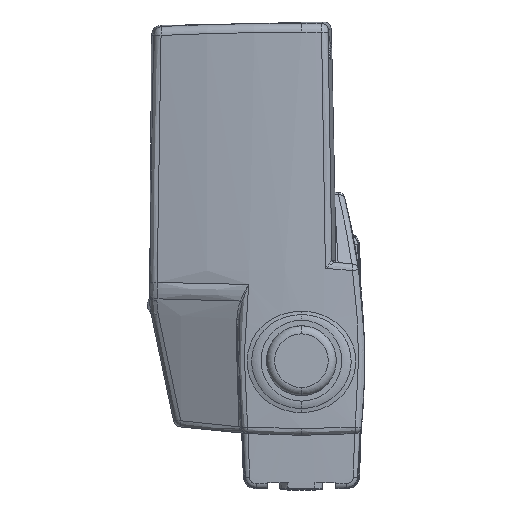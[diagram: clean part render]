
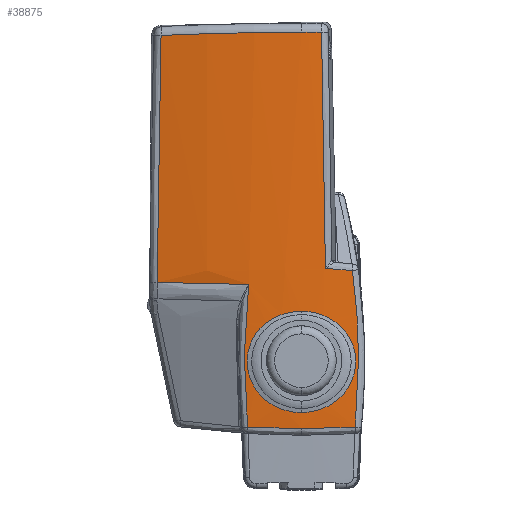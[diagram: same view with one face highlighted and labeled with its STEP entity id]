
A CAD part, left-side view. The second image highlights one B-rep face of the part: STEP entity #38875.
In plain terms, the highlighted toroidal (fillet/blend) face has major radius 2250 mm and minor radius 250 mm.
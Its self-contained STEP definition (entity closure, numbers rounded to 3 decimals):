
#730=CARTESIAN_POINT('',(-37.569,-18.917,33.47));
#769=CARTESIAN_POINT('',(-37.795,0.,
-25.25));
#770=CARTESIAN_POINT('',(-37.795,-6.669,
-25.25));
#771=CARTESIAN_POINT('',(-37.531,-13.339,
-25.054));
#772=CARTESIAN_POINT('',(-37.008,-19.975,
-24.643));
#777=CARTESIAN_POINT('',(-37.008,19.975,-24.643));
#778=CARTESIAN_POINT('',(-37.531,13.339,-25.054));
#779=CARTESIAN_POINT('',(-37.795,6.669,-25.25));
#780=CARTESIAN_POINT('',(-37.795,0.,
-25.25));
#785=CARTESIAN_POINT('',(-37.53,19.573,28.3));
#786=CARTESIAN_POINT('',(-37.393,21.613,10.734));
#787=CARTESIAN_POINT('',(-37.215,21.748,-7.049));
#788=CARTESIAN_POINT('',(-37.008,19.975,-24.643));
#793=CARTESIAN_POINT('',(-32.494,53.549,29.039));
#794=CARTESIAN_POINT('',(-33.313,49.818,28.919));
#795=CARTESIAN_POINT('',(-34.778,42.319,28.704));
#796=CARTESIAN_POINT('',(-36.459,30.981,28.457));
#797=CARTESIAN_POINT('',(-37.231,23.38,28.344));
#798=CARTESIAN_POINT('',(-37.53,19.573,28.3));
#803=CARTESIAN_POINT('',(-30.973,52.103,120.725));
#804=CARTESIAN_POINT('',(-31.297,52.411,110.568));
#805=CARTESIAN_POINT('',(-31.842,52.929,90.234));
#806=CARTESIAN_POINT('',(-32.349,53.412,59.668));
#807=CARTESIAN_POINT('',(-32.481,53.536,39.255));
#808=CARTESIAN_POINT('',(-32.494,53.549,29.039));
#813=CARTESIAN_POINT('',(204.34,-0.006,69.778));
#814=DIRECTION('',(-0.212,0.,-0.977));
#815=DIRECTION('',(-0.977,0.,0.212));
#816=AXIS2_PLACEMENT_3D('',#813,#814,#815);
#821=CARTESIAN_POINT('',(-38.124,-8.904,34.248));
#822=CARTESIAN_POINT('',(-38.019,-8.823,63.467));
#823=CARTESIAN_POINT('',(-37.417,-8.336,92.685));
#824=CARTESIAN_POINT('',(-36.31,-7.482,121.871));
#829=CARTESIAN_POINT('',(-37.569,-18.917,33.47));
#830=CARTESIAN_POINT('',(-37.82,-15.588,33.785));
#831=CARTESIAN_POINT('',(-38.006,-12.249,34.037));
#832=CARTESIAN_POINT('',(-38.124,-8.904,34.248));
#837=CARTESIAN_POINT('',(-37.008,-19.975,
-24.643));
#838=CARTESIAN_POINT('',(-37.235,-21.922,
-5.321));
#839=CARTESIAN_POINT('',(-37.433,-21.566,14.23));
#840=CARTESIAN_POINT('',(-37.569,-18.917,33.47));
#1720=CARTESIAN_POINT('',(204.227,0.,69.831));
#1721=DIRECTION('',(0.211,0.,0.977));
#1722=DIRECTION('',(-0.977,0.,0.211));
#1723=AXIS2_PLACEMENT_3D('',#1720,#1721,#1722);
#3527=CARTESIAN_POINT('',(-37.908,0.,
-19.27));
#3528=CARTESIAN_POINT('',(-37.908,-1.418,
-19.27));
#3529=CARTESIAN_POINT('',(-37.889,-4.148,
-19.002));
#3530=CARTESIAN_POINT('',(-37.813,-8.013,
-17.863));
#3531=CARTESIAN_POINT('',(-37.71,-11.373,
-16.147));
#3532=CARTESIAN_POINT('',(-37.59,-14.391,
-13.807));
#3533=CARTESIAN_POINT('',(-37.477,-16.839,
-10.987));
#3534=CARTESIAN_POINT('',(-37.39,-18.663,
-7.782));
#3535=CARTESIAN_POINT('',(-37.343,-19.799,
-4.391));
#3536=CARTESIAN_POINT('',(-37.346,-20.259,
-0.751));
#3537=CARTESIAN_POINT('',(-37.404,-19.978,
2.873));
#3538=CARTESIAN_POINT('',(-37.511,-18.981,
6.372));
#3539=CARTESIAN_POINT('',(-37.658,-17.281,
9.648));
#3540=CARTESIAN_POINT('',(-37.833,-14.858,
12.619));
#3541=CARTESIAN_POINT('',(-38.009,-11.804,
15.071));
#3542=CARTESIAN_POINT('',(-38.158,-8.323,
16.875));
#3543=CARTESIAN_POINT('',(-38.265,-4.322,
18.044));
#3544=CARTESIAN_POINT('',(-38.291,-1.479,
18.318));
#3545=CARTESIAN_POINT('',(-38.291,0.,
18.318));
#3558=CARTESIAN_POINT('',(-38.291,0.,
18.318));
#3559=CARTESIAN_POINT('',(-38.291,1.479,18.318));
#3560=CARTESIAN_POINT('',(-38.264,4.292,18.044));
#3561=CARTESIAN_POINT('',(-38.163,8.144,16.93));
#3562=CARTESIAN_POINT('',(-38.026,11.435,15.289));
#3563=CARTESIAN_POINT('',(-37.861,14.419,13.022));
#3564=CARTESIAN_POINT('',(-37.693,16.831,10.286));
#3565=CARTESIAN_POINT('',(-37.541,18.655,7.133));
#3566=CARTESIAN_POINT('',(-37.425,19.801,3.729));
#3567=CARTESIAN_POINT('',(-37.355,20.26,
0.114));
#3568=CARTESIAN_POINT('',(-37.339,19.971,
-3.58));
#3569=CARTESIAN_POINT('',(-37.376,18.95,
-7.121));
#3570=CARTESIAN_POINT('',(-37.459,17.203,
-10.472));
#3571=CARTESIAN_POINT('',(-37.575,14.722,
-13.504));
#3572=CARTESIAN_POINT('',(-37.701,11.626,
-15.997));
#3573=CARTESIAN_POINT('',(-37.811,8.126,
-17.829));
#3574=CARTESIAN_POINT('',(-37.889,4.151,
-19.006));
#3575=CARTESIAN_POINT('',(-37.908,1.411,
-19.27));
#3576=CARTESIAN_POINT('',(-37.908,0.,
-19.27));
#34163=VERTEX_POINT('',#730);
#34164=VERTEX_POINT('',#832);
#34167=VERTEX_POINT('',#769);
#34168=VERTEX_POINT('',#772);
#34169=VERTEX_POINT('',#777);
#34170=VERTEX_POINT('',#785);
#34171=VERTEX_POINT('',#793);
#34172=VERTEX_POINT('',#803);
#34173=CARTESIAN_POINT('',(-36.422,0.,
121.895));
#34174=VERTEX_POINT('',#34173);
#34175=CARTESIAN_POINT('',(-36.311,-7.482,
121.868));
#34176=VERTEX_POINT('',#34175);
#34177=VERTEX_POINT('',#3527);
#34178=VERTEX_POINT('',#3545);
#38843=CARTESIAN_POINT('',(2461.7,0.,25.));
#38844=DIRECTION('',(0.,1.,0.));
#38845=DIRECTION('',(-0.999,0.,-0.044));
#38846=AXIS2_PLACEMENT_3D('',#38843,#38844,#38845);
#38847=TOROIDAL_SURFACE('',#38846,2250.,250.);
#38849=ORIENTED_EDGE('',*,*,#38848,.F.);
#38851=ORIENTED_EDGE('',*,*,#38850,.F.);
#38853=ORIENTED_EDGE('',*,*,#38852,.F.);
#38855=ORIENTED_EDGE('',*,*,#38854,.F.);
#38857=ORIENTED_EDGE('',*,*,#38856,.F.);
#38859=ORIENTED_EDGE('',*,*,#38858,.F.);
#38861=ORIENTED_EDGE('',*,*,#38860,.T.);
#38863=ORIENTED_EDGE('',*,*,#38862,.F.);
#38864=ORIENTED_EDGE('',*,*,#38831,.F.);
#38866=ORIENTED_EDGE('',*,*,#38865,.F.);
#38867=EDGE_LOOP('',(#38849,#38851,#38853,#38855,#38857,#38859,#38861,#38863,
#38864,#38866));
#38868=FACE_OUTER_BOUND('',#38867,.F.);
#38870=ORIENTED_EDGE('',*,*,#38869,.T.);
#38872=ORIENTED_EDGE('',*,*,#38871,.T.);
#38873=EDGE_LOOP('',(#38870,#38872));
#38874=FACE_BOUND('',#38873,.F.);
#38875=ADVANCED_FACE('',(#38868,#38874),#38847,.T.);
#773=B_SPLINE_CURVE_WITH_KNOTS('',3,(#769,#770,#771,#772),.UNSPECIFIED.,.F.,.F.,
(4,4),(0.,1.),.UNSPECIFIED.);
#781=B_SPLINE_CURVE_WITH_KNOTS('',3,(#777,#778,#779,#780),.UNSPECIFIED.,.F.,.F.,
(4,4),(0.,1.),.UNSPECIFIED.);
#789=B_SPLINE_CURVE_WITH_KNOTS('',3,(#785,#786,#787,#788),.UNSPECIFIED.,.F.,.F.,
(4,4),(0.,1.),.UNSPECIFIED.);
#799=B_SPLINE_CURVE_WITH_KNOTS('',3,(#793,#794,#795,#796,#797,#798),
.UNSPECIFIED.,.F.,.F.,(4,1,1,4),(0.,0.333,0.667,1.),
.UNSPECIFIED.);
#809=B_SPLINE_CURVE_WITH_KNOTS('',3,(#803,#804,#805,#806,#807,#808),
.UNSPECIFIED.,.F.,.F.,(4,1,1,4),(0.,0.333,0.667,1.),
.UNSPECIFIED.);
#817=CIRCLE('',#816,246.337);
#825=B_SPLINE_CURVE_WITH_KNOTS('',3,(#821,#822,#823,#824),.UNSPECIFIED.,.F.,.F.,
(4,4),(0.,1.),.UNSPECIFIED.);
#833=B_SPLINE_CURVE_WITH_KNOTS('',3,(#829,#830,#831,#832),.UNSPECIFIED.,.F.,.F.,
(4,4),(0.,1.),.UNSPECIFIED.);
#841=B_SPLINE_CURVE_WITH_KNOTS('',3,(#837,#838,#839,#840),.UNSPECIFIED.,.F.,.F.,
(4,4),(0.,1.),.UNSPECIFIED.);
#1724=CIRCLE('',#1723,246.215);
#3546=B_SPLINE_CURVE_WITH_KNOTS('',3,(#3527,#3528,#3529,#3530,#3531,#3532,#3533,
#3534,#3535,#3536,#3537,#3538,#3539,#3540,#3541,#3542,#3543,#3544,#3545),
.UNSPECIFIED.,.F.,.F.,(4,1,1,1,1,1,1,1,1,1,1,1,1,1,1,1,4),(0.,0.063,0.125,
0.188,0.25,0.313,0.375,0.438,0.5,0.563,0.625,0.688,
0.75,0.813,0.875,0.938,1.),.UNSPECIFIED.);
#3577=B_SPLINE_CURVE_WITH_KNOTS('',3,(#3558,#3559,#3560,#3561,#3562,#3563,#3564,
#3565,#3566,#3567,#3568,#3569,#3570,#3571,#3572,#3573,#3574,#3575,#3576),
.UNSPECIFIED.,.F.,.F.,(4,1,1,1,1,1,1,1,1,1,1,1,1,1,1,1,4),(0.,0.063,0.125,
0.188,0.25,0.313,0.375,0.438,0.5,0.563,0.625,0.688,
0.75,0.813,0.875,0.938,1.),.UNSPECIFIED.);
#38831=EDGE_CURVE('',#34163,#34164,#833,.T.);
#38848=EDGE_CURVE('',#34167,#34168,#773,.T.);
#38850=EDGE_CURVE('',#34169,#34167,#781,.T.);
#38852=EDGE_CURVE('',#34170,#34169,#789,.T.);
#38854=EDGE_CURVE('',#34171,#34170,#799,.T.);
#38856=EDGE_CURVE('',#34172,#34171,#809,.T.);
#38858=EDGE_CURVE('',#34174,#34172,#817,.T.);
#38860=EDGE_CURVE('',#34174,#34176,#1724,.T.);
#38862=EDGE_CURVE('',#34164,#34176,#825,.T.);
#38865=EDGE_CURVE('',#34168,#34163,#841,.T.);
#38869=EDGE_CURVE('',#34177,#34178,#3546,.T.);
#38871=EDGE_CURVE('',#34178,#34177,#3577,.T.);
